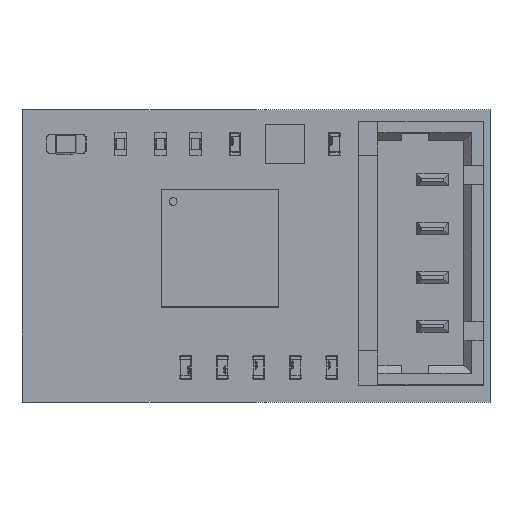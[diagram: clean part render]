
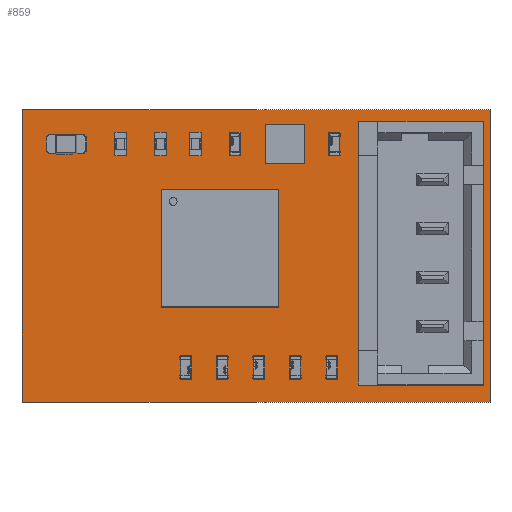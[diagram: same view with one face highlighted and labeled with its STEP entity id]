
A CAD part, top view. The second image highlights one B-rep face of the part: STEP entity #859.
In plain terms, the highlighted planar face has unit normal (0, 0, 1).
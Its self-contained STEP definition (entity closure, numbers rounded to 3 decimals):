
#449=FACE_BOUND('',#2228,.T.);
#450=FACE_BOUND('',#2229,.T.);
#451=FACE_BOUND('',#2230,.T.);
#452=FACE_BOUND('',#2231,.T.);
#859=ADVANCED_FACE('',(#1461,#449,#450,#451,#452),#19846,.T.);
#1461=FACE_OUTER_BOUND('',#2227,.T.);
#2227=EDGE_LOOP('',(#6514,#6515,#6516,#6517));
#2228=EDGE_LOOP('',(#6518,#6519,#6520));
#2229=EDGE_LOOP('',(#6521,#6522,#6523));
#2230=EDGE_LOOP('',(#6524,#6525));
#2231=EDGE_LOOP('',(#6526,#6527));
#6514=ORIENTED_EDGE('',*,*,#11129,.F.);
#6515=ORIENTED_EDGE('',*,*,#11130,.F.);
#6516=ORIENTED_EDGE('',*,*,#11131,.F.);
#6517=ORIENTED_EDGE('',*,*,#11128,.F.);
#6518=ORIENTED_EDGE('',*,*,#11124,.T.);
#6519=ORIENTED_EDGE('',*,*,#11143,.F.);
#6520=ORIENTED_EDGE('',*,*,#11140,.F.);
#6521=ORIENTED_EDGE('',*,*,#11120,.T.);
#6522=ORIENTED_EDGE('',*,*,#11148,.F.);
#6523=ORIENTED_EDGE('',*,*,#11145,.F.);
#6524=ORIENTED_EDGE('',*,*,#11154,.F.);
#6525=ORIENTED_EDGE('',*,*,#11151,.F.);
#6526=ORIENTED_EDGE('',*,*,#11116,.T.);
#6527=ORIENTED_EDGE('',*,*,#11156,.T.);
#11116=EDGE_CURVE('',#19297,#19298,#15682,.T.);
#11120=EDGE_CURVE('',#19301,#19302,#15684,.T.);
#11124=EDGE_CURVE('',#19305,#19306,#15686,.T.);
#11128=EDGE_CURVE('',#19309,#19310,#14810,.T.);
#11129=EDGE_CURVE('',#19311,#19309,#14811,.T.);
#11130=EDGE_CURVE('',#19312,#19311,#14812,.T.);
#11131=EDGE_CURVE('',#19310,#19312,#14813,.T.);
#11140=EDGE_CURVE('',#19305,#19313,#15688,.T.);
#11143=EDGE_CURVE('',#19313,#19306,#15690,.T.);
#11145=EDGE_CURVE('',#19301,#19314,#15692,.T.);
#11148=EDGE_CURVE('',#19314,#19302,#15694,.T.);
#11151=EDGE_CURVE('',#19316,#19315,#15696,.T.);
#11154=EDGE_CURVE('',#19315,#19316,#15698,.T.);
#11156=EDGE_CURVE('',#19298,#19297,#15700,.T.);
#14810=B_SPLINE_CURVE_WITH_KNOTS('',1,(#38404,#38405),.UNSPECIFIED.,.F.,
 .F.,(2,2),(-11.975,0.),.UNSPECIFIED.);
#14811=B_SPLINE_CURVE_WITH_KNOTS('',1,(#38406,#38407),.UNSPECIFIED.,.F.,
 .F.,(2,2),(-7.475,0.),.UNSPECIFIED.);
#14812=B_SPLINE_CURVE_WITH_KNOTS('',1,(#38408,#38409),.UNSPECIFIED.,.F.,
 .F.,(2,2),(-11.975,0.),.UNSPECIFIED.);
#14813=B_SPLINE_CURVE_WITH_KNOTS('',1,(#38410,#38411),.UNSPECIFIED.,.F.,
 .F.,(2,2),(-7.475,0.),.UNSPECIFIED.);
#15682=TRIMMED_CURVE($,#16103,(#38375),(#38376),.T.,.CARTESIAN.);
#15684=TRIMMED_CURVE($,#16105,(#38385),(#38386),.T.,.CARTESIAN.);
#15686=TRIMMED_CURVE($,#16107,(#38395),(#38396),.T.,.CARTESIAN.);
#15688=TRIMMED_CURVE($,#16109,(#38429),(#38430),.T.,.CARTESIAN.);
#15690=TRIMMED_CURVE($,#16111,(#38437),(#38438),.T.,.CARTESIAN.);
#15692=TRIMMED_CURVE($,#16113,(#38443),(#38444),.T.,.CARTESIAN.);
#15694=TRIMMED_CURVE($,#16115,(#38451),(#38452),.T.,.CARTESIAN.);
#15696=TRIMMED_CURVE($,#16117,(#38459),(#38460),.T.,.CARTESIAN.);
#15698=TRIMMED_CURVE($,#16119,(#38467),(#38468),.T.,.CARTESIAN.);
#15700=TRIMMED_CURVE($,#16121,(#38473),(#38474),.T.,.CARTESIAN.);
#16103=CIRCLE('',#20881,0.3);
#16105=CIRCLE('',#20883,0.3);
#16107=CIRCLE('',#20885,0.3);
#16109=CIRCLE('',#20887,0.3);
#16111=CIRCLE('',#20889,0.3);
#16113=CIRCLE('',#20891,0.3);
#16115=CIRCLE('',#20893,0.3);
#16117=CIRCLE('',#20895,0.3);
#16119=CIRCLE('',#20897,0.3);
#16121=CIRCLE('',#20899,0.3);
#19297=VERTEX_POINT('',#38346);
#19298=VERTEX_POINT('',#38347);
#19301=VERTEX_POINT('',#38350);
#19302=VERTEX_POINT('',#38351);
#19305=VERTEX_POINT('',#38354);
#19306=VERTEX_POINT('',#38355);
#19309=VERTEX_POINT('',#38358);
#19310=VERTEX_POINT('',#38359);
#19311=VERTEX_POINT('',#38360);
#19312=VERTEX_POINT('',#38361);
#19313=VERTEX_POINT('',#38362);
#19314=VERTEX_POINT('',#38363);
#19315=VERTEX_POINT('',#38364);
#19316=VERTEX_POINT('',#38365);
#19846=PLANE('',#20868);
#20868=AXIS2_PLACEMENT_3D('',#38333,#22177,$);
#20881=AXIS2_PLACEMENT_3D($,#38374,#22190,#22191);
#20883=AXIS2_PLACEMENT_3D($,#38384,#22194,#22195);
#20885=AXIS2_PLACEMENT_3D($,#38394,#22198,#22199);
#20887=AXIS2_PLACEMENT_3D($,#38428,#22202,#22203);
#20889=AXIS2_PLACEMENT_3D($,#38436,#22206,#22207);
#20891=AXIS2_PLACEMENT_3D($,#38442,#22210,#22211);
#20893=AXIS2_PLACEMENT_3D($,#38450,#22214,#22215);
#20895=AXIS2_PLACEMENT_3D($,#38458,#22218,#22219);
#20897=AXIS2_PLACEMENT_3D($,#38466,#22222,#22223);
#20899=AXIS2_PLACEMENT_3D($,#38472,#22226,#22227);
#22177=DIRECTION('',(0.,0.,1.));
#22190=DIRECTION('',(0.,0.,-1.));
#22191=DIRECTION('',(-1.,0.,0.));
#22194=DIRECTION('',(0.,0.,-1.));
#22195=DIRECTION('',(0.,-1.,0.));
#22198=DIRECTION('',(0.,0.,-1.));
#22199=DIRECTION('',(0.,-1.,0.));
#22202=DIRECTION('',(0.,0.,1.));
#22203=DIRECTION('',(0.,-1.,0.));
#22206=DIRECTION('',(0.,0.,1.));
#22207=DIRECTION('',(1.,0.,0.));
#22210=DIRECTION('',(0.,0.,1.));
#22211=DIRECTION('',(0.,-1.,0.));
#22214=DIRECTION('',(0.,0.,1.));
#22215=DIRECTION('',(1.,0.,0.));
#22218=DIRECTION('',(0.,0.,1.));
#22219=DIRECTION('',(1.,0.,0.));
#22222=DIRECTION('',(0.,0.,1.));
#22223=DIRECTION('',(-1.,0.,0.));
#22226=DIRECTION('',(0.,0.,-1.));
#22227=DIRECTION('',(1.,0.,0.));
#38333=CARTESIAN_POINT('',(13.185,-0.742,1.));
#38346=CARTESIAN_POINT('',(10.368,5.685,1.));
#38347=CARTESIAN_POINT('',(10.968,5.685,1.));
#38350=CARTESIAN_POINT('',(10.668,2.885,1.));
#38351=CARTESIAN_POINT('',(10.368,3.185,1.));
#38354=CARTESIAN_POINT('',(10.668,4.135,1.));
#38355=CARTESIAN_POINT('',(10.368,4.435,1.));
#38358=CARTESIAN_POINT('',(0.013,7.48,1.));
#38359=CARTESIAN_POINT('',(11.987,7.48,1.));
#38360=CARTESIAN_POINT('',(0.013,0.006,1.));
#38361=CARTESIAN_POINT('',(11.987,0.006,1.));
#38362=CARTESIAN_POINT('',(10.968,4.435,1.));
#38363=CARTESIAN_POINT('',(10.968,3.185,1.));
#38364=CARTESIAN_POINT('',(10.368,1.935,1.));
#38365=CARTESIAN_POINT('',(10.968,1.935,1.));
#38374=CARTESIAN_POINT('',(10.668,5.685,1.));
#38375=CARTESIAN_POINT('',(10.368,5.685,1.));
#38376=CARTESIAN_POINT('',(10.968,5.685,1.));
#38384=CARTESIAN_POINT('',(10.668,3.185,1.));
#38385=CARTESIAN_POINT('',(10.668,2.885,1.));
#38386=CARTESIAN_POINT('',(10.368,3.185,1.));
#38394=CARTESIAN_POINT('',(10.668,4.435,1.));
#38395=CARTESIAN_POINT('',(10.668,4.135,1.));
#38396=CARTESIAN_POINT('',(10.368,4.435,1.));
#38404=CARTESIAN_POINT('',(0.013,7.48,1.));
#38405=CARTESIAN_POINT('',(11.987,7.48,1.));
#38406=CARTESIAN_POINT('',(0.013,0.006,1.));
#38407=CARTESIAN_POINT('',(0.013,7.48,1.));
#38408=CARTESIAN_POINT('',(11.987,0.006,1.));
#38409=CARTESIAN_POINT('',(0.013,0.006,1.));
#38410=CARTESIAN_POINT('',(11.987,7.48,1.));
#38411=CARTESIAN_POINT('',(11.987,0.006,1.));
#38428=CARTESIAN_POINT('',(10.668,4.435,1.));
#38429=CARTESIAN_POINT('',(10.668,4.135,1.));
#38430=CARTESIAN_POINT('',(10.968,4.435,1.));
#38436=CARTESIAN_POINT('',(10.668,4.435,1.));
#38437=CARTESIAN_POINT('',(10.968,4.435,1.));
#38438=CARTESIAN_POINT('',(10.368,4.435,1.));
#38442=CARTESIAN_POINT('',(10.668,3.185,1.));
#38443=CARTESIAN_POINT('',(10.668,2.885,1.));
#38444=CARTESIAN_POINT('',(10.968,3.185,1.));
#38450=CARTESIAN_POINT('',(10.668,3.185,1.));
#38451=CARTESIAN_POINT('',(10.968,3.185,1.));
#38452=CARTESIAN_POINT('',(10.368,3.185,1.));
#38458=CARTESIAN_POINT('',(10.668,1.935,1.));
#38459=CARTESIAN_POINT('',(10.968,1.935,1.));
#38460=CARTESIAN_POINT('',(10.368,1.935,1.));
#38466=CARTESIAN_POINT('',(10.668,1.935,1.));
#38467=CARTESIAN_POINT('',(10.368,1.935,1.));
#38468=CARTESIAN_POINT('',(10.968,1.935,1.));
#38472=CARTESIAN_POINT('',(10.668,5.685,1.));
#38473=CARTESIAN_POINT('',(10.968,5.685,1.));
#38474=CARTESIAN_POINT('',(10.368,5.685,1.));
